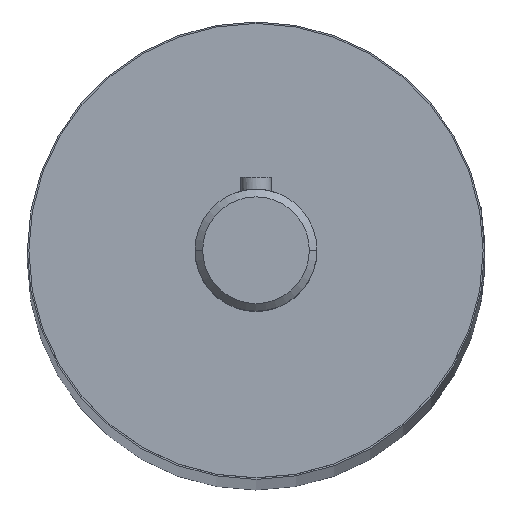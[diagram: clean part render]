
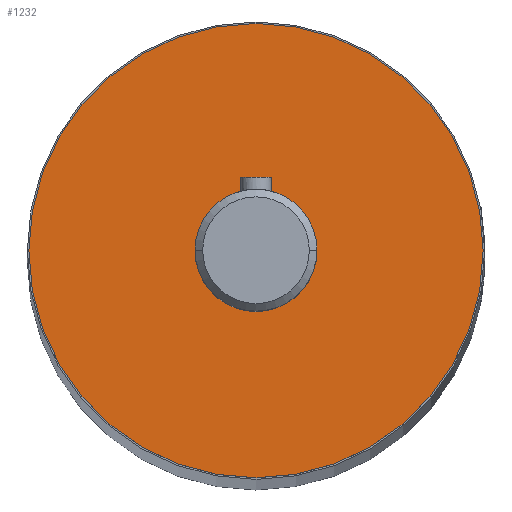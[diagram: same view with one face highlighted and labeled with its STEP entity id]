
A CAD part, top view. The second image highlights one B-rep face of the part: STEP entity #1232.
In plain terms, the highlighted planar face has unit normal (0, 0, 1).
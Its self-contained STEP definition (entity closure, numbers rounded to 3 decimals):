
#11 = CIRCLE ( 'NONE', #1209, 14.9 ) ;
#56 = EDGE_LOOP ( 'NONE', ( #1927, #458 ) ) ;
#121 = CARTESIAN_POINT ( 'NONE',  ( 14.9, 0., 202.5 ) ) ;
#142 = FACE_BOUND ( 'NONE', #56, .T. ) ;
#164 = DIRECTION ( 'NONE',  ( 0., 0., 1. ) ) ;
#178 = AXIS2_PLACEMENT_3D ( 'NONE', #1902, #1295, #1195 ) ;
#229 = DIRECTION ( 'NONE',  ( 0., 0., 1. ) ) ;
#268 = EDGE_LOOP ( 'NONE', ( #270, #1125 ) ) ;
#270 = ORIENTED_EDGE ( 'NONE', *, *, #1103, .T. ) ;
#299 = FACE_OUTER_BOUND ( 'NONE', #268, .T. ) ;
#300 = EDGE_CURVE ( 'NONE', #451, #1598, #11, .T. ) ;
#341 = DIRECTION ( 'NONE',  ( 1., 0., 0. ) ) ;
#364 = CARTESIAN_POINT ( 'NONE',  ( -14.9, 0., 202.5 ) ) ;
#390 = AXIS2_PLACEMENT_3D ( 'NONE', #1658, #164, #341 ) ;
#451 = VERTEX_POINT ( 'NONE', #121 ) ;
#458 = ORIENTED_EDGE ( 'NONE', *, *, #816, .F. ) ;
#479 = CARTESIAN_POINT ( 'NONE',  ( -4., 0., 202.5 ) ) ;
#546 = CARTESIAN_POINT ( 'NONE',  ( 0., 0., 202.5 ) ) ;
#754 = DIRECTION ( 'NONE',  ( 0., 0., 1. ) ) ;
#816 = EDGE_CURVE ( 'NONE', #1324, #1284, #1361, .T. ) ;
#900 = CARTESIAN_POINT ( 'NONE',  ( 0., 0., 202.5 ) ) ;
#930 = AXIS2_PLACEMENT_3D ( 'NONE', #900, #754, #1337 ) ;
#992 = CARTESIAN_POINT ( 'NONE',  ( 0., 0., 202.5 ) ) ;
#1037 = CIRCLE ( 'NONE', #178, 14.9 ) ;
#1046 = PLANE ( 'NONE',  #930 ) ;
#1088 = AXIS2_PLACEMENT_3D ( 'NONE', #992, #229, #1283 ) ;
#1103 = EDGE_CURVE ( 'NONE', #1598, #451, #1037, .T. ) ;
#1125 = ORIENTED_EDGE ( 'NONE', *, *, #300, .T. ) ;
#1148 = DIRECTION ( 'NONE',  ( 0., 0., 1. ) ) ;
#1195 = DIRECTION ( 'NONE',  ( 1., 0., 0. ) ) ;
#1209 = AXIS2_PLACEMENT_3D ( 'NONE', #546, #1148, #1399 ) ;
#1232 = ADVANCED_FACE ( 'NONE', ( #142, #299 ), #1046, .T. ) ;
#1283 = DIRECTION ( 'NONE',  ( 1., 0., 0. ) ) ;
#1284 = VERTEX_POINT ( 'NONE', #479 ) ;
#1295 = DIRECTION ( 'NONE',  ( 0., 0., 1. ) ) ;
#1324 = VERTEX_POINT ( 'NONE', #1460 ) ;
#1337 = DIRECTION ( 'NONE',  ( 1., 0., 0. ) ) ;
#1352 = EDGE_CURVE ( 'NONE', #1284, #1324, #1882, .T. ) ;
#1361 = CIRCLE ( 'NONE', #390, 4. ) ;
#1399 = DIRECTION ( 'NONE',  ( 1., 0., 0. ) ) ;
#1460 = CARTESIAN_POINT ( 'NONE',  ( 4., 0., 202.5 ) ) ;
#1598 = VERTEX_POINT ( 'NONE', #364 ) ;
#1658 = CARTESIAN_POINT ( 'NONE',  ( 0., 0., 202.5 ) ) ;
#1882 = CIRCLE ( 'NONE', #1088, 4. ) ;
#1902 = CARTESIAN_POINT ( 'NONE',  ( 0., 0., 202.5 ) ) ;
#1927 = ORIENTED_EDGE ( 'NONE', *, *, #1352, .F. ) ;
